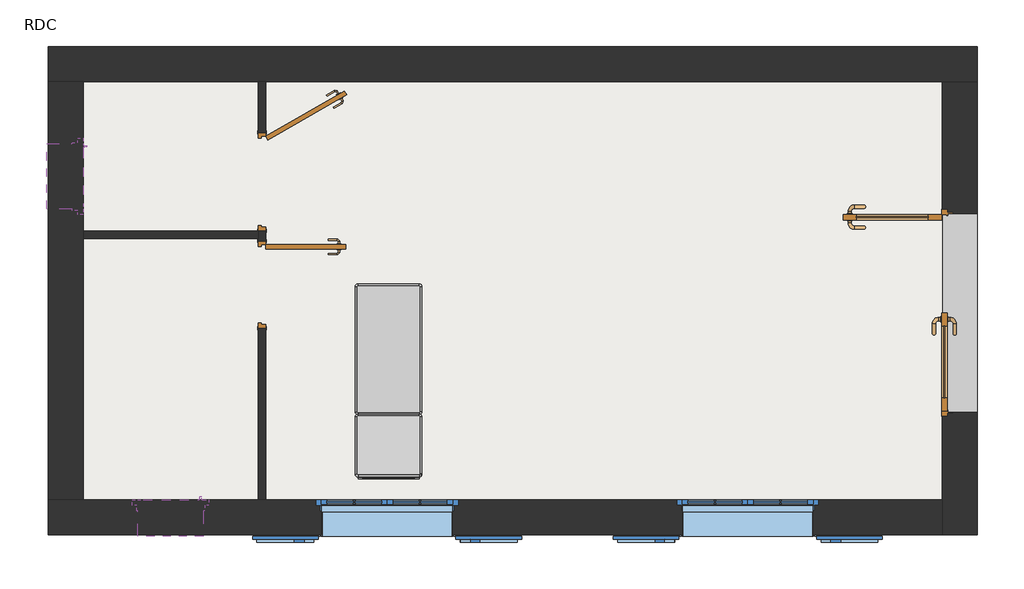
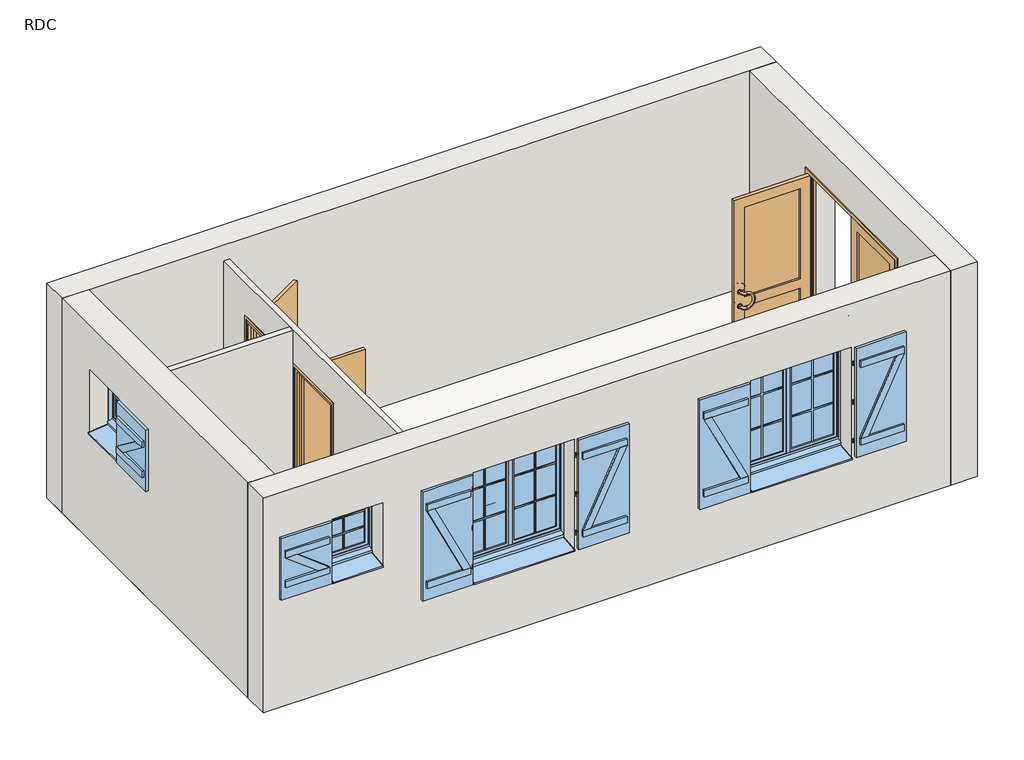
# One storey, incomplete: 6 walls, 4 windows, 3 doors, 1 furniture element, 1 proxy, 1 slab.
"""IFC4 building model written with IfcOpenShell, lengths in millimetres."""

from ifc_helpers import new_model, si_unit, frame, origin, origin_with_axes, place, context, project, spatial, polyline, outline, extrude, faceted_brep, triangles, transform, mapped, element, save
from components import ext_double_655bdf71, int_simple_pp_0_73m_x_2_04m_4c4d3f64, int_simple_pp_0_83m_x_2_04m_347fc496, furniture_1800_x_600_x_800_mm_032c7c21, furniture_1800_x_600_x_800_mm_1ba1c7d4, window_0_60m_x_0_75m_appui_alu_5fc1b312, window_0_60m_x_0_75m_appui_alu_97261319, window_1_20m_x_1_35m_appui_alu_f21a0c15

model = new_model("IFC4")

# Units and contexts
model_context = context("Model", 3, world=origin())
ifc_project = project(units=[si_unit("LENGTHUNIT", "METRE", prefix="MILLI")], contexts=[model_context])

# Site, building, storey
site = spatial("IfcSite", under=ifc_project)
building = spatial("IfcBuilding", under=site)
storey = spatial("IfcBuildingStorey", under=building, Name="RDC", Elevation=0.0)

# Proxy
placement = place(None, origin())
element("IfcBuildingElementProxy", 1, Name="Building Element Proxy", at=placement, inside=storey, context=model_context, shape_type="Tessellation", body=[
    triangles([(2797.9559601, 6238.2953842, 0.0), (483.1190938, 6238.2953842, 0.0), (-5702.0438141, 6238.2953842, 0.0), (-5702.0438141, 2218.7382626, 0.0), (-5702.0438141, 1768.2951176, 0.0), (2797.9559601, 1768.2951176, 0.0)], [[4, 5, 6], [3, 4, 2], [2, 6, 1], [6, 2, 4]], closed=False),
])

# Doors
ext_double_shape = ext_double_655bdf71(model_context)
element("IfcDoor", 2, ObjectType="Ext. Double : Vitrée avec traverse - 1.80 m x 2.15 m", at=placement, inside=storey, context=model_context, shape_type="MappedRepresentation", body=[
    mapped(ext_double_shape, transform((2637.9561003, 3790.7951017, 0.0), x_axis=(0.0, -1.0, 0.0), y_axis=(1.0, 0.0, 0.0), z_axis=(0.0, 0.0, 1.0))),
])
int_simple_pp_0_73m_x_2_04m_shape = int_simple_pp_0_73m_x_2_04m_4c4d3f64(model_context)
element("IfcDoor", 3, ObjectType="Int. Simple : PP (0.73m x 2.04m)", at=placement, inside=storey, context=model_context, shape_type="MappedRepresentation", body=[
    mapped(int_simple_pp_0_73m_x_2_04m_shape, transform((-3747.0438997, 4093.2951017, 0.0), x_axis=(0.0, 1.0, 0.0), y_axis=(-1.0, 0.0, 0.0), z_axis=(0.0, 0.0, 1.0))),
])
int_simple_pp_0_83m_x_2_04m_shape = int_simple_pp_0_83m_x_2_04m_347fc496(model_context)
element("IfcDoor", 4, ObjectType="Int. Simple : PP (0.83m x 2.04m)", at=placement, inside=storey, context=model_context, shape_type="MappedRepresentation", body=[
    mapped(int_simple_pp_0_83m_x_2_04m_shape, transform((-3747.0438997, 5035.7951017, 0.0), x_axis=(0.0, 1.0, 0.0), y_axis=(-1.0, 0.0, 0.0), z_axis=(0.0, 0.0, 1.0))),
])

# Furniture
furniture_1800_x_600_x_800_mm_shape = furniture_1800_x_600_x_800_mm_032c7c21(model_context)
furniture_1800_x_600_x_800_mm_2_shape = furniture_1800_x_600_x_800_mm_1ba1c7d4(model_context)
element("IfcFurniture", 5, ObjectType="Table d'examen : 1800 x 600 x 800 mm", at=placement, inside=storey, context=model_context, shape_type="MappedRepresentation", body=[
    mapped(furniture_1800_x_600_x_800_mm_shape, transform((-2288.1651931, 3204.8177553, 0.0), x_axis=(0.0, -1.0000000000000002, 0.0), y_axis=(1.0000000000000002, 0.0, 0.0), z_axis=(0.0, 0.0, 1.0))),
    mapped(furniture_1800_x_600_x_800_mm_2_shape, transform((-2288.1651931, 3204.8177553, 0.0), x_axis=(0.0, -1.0000000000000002, 0.0), y_axis=(1.0000000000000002, 0.0, 0.0), z_axis=(0.0, 0.0, 1.0))),
])

# Slab
element("IfcSlab", 6, ObjectType="Générique  250 mm", at=placement, inside=storey, context=model_context, shape_type="SweptSolid", body=[
    extrude(outline(polyline([(2477.9561003, 5918.2951017), (2477.9561003, 2088.2951017), (-5382.0438997, 2088.2951017), (-5382.0438997, 5918.2951017), (2477.9561003, 5918.2951017)])), frame((0.0, 0.0, -250.0), z_axis=(0.0, 0.0, 1.0), x_axis=(1.0, 0.0, 0.0)), (0.0, 0.0, 1.0), 250.0),
])

# Walls
element("IfcWall", 7, ObjectType="Générique - 200 mm+ isolant 100", at=placement, inside=storey, context=model_context, shape_type="Brep", body=[
    faceted_brep([(-5702.0438997, 5918.2951017, 0.0), (-5382.0438997, 5918.2951017, 0.0), (2477.9561003, 5918.2951017, 0.0), (2797.9561003, 5918.2951017, 0.0), (2797.9561003, 5918.2951017, 2700.0), (2477.9561003, 5918.2951017, 2700.0), (-5382.0438997, 5918.2951017, 2700.0), (-5702.0438997, 5918.2951017, 2700.0), (-5702.0438997, 6238.2951017, 0.0), (-5702.0438997, 6238.2951017, 2700.0), (2797.9561003, 6238.2951017, 2700.0), (2797.9561003, 6238.2951017, 0.0)], [[[0, 1, 2, 3, 4, 5, 6, 7]], [[8, 9, 10, 11]], [[3, 2, 1, 0, 8, 11]], [[7, 6, 5, 4, 10, 9]], [[4, 3, 11, 10]], [[0, 7, 9, 8]]]),
])
element("IfcWall", 8, ObjectType="Générique - 200 mm+ isolant 100", at=placement, inside=storey, context=model_context, shape_type="Brep", body=[
    faceted_brep([(2477.9561003, 1768.2951017, 2700.0), (2477.9561003, 2088.2951017, 2700.0), (2477.9561003, 5918.2951017, 2700.0), (2477.9561003, 5918.2951017, 0.0), (2477.9561003, 4750.7951017, 0.0), (2477.9561003, 4750.7951017, 2200.0), (2477.9561003, 2850.7951017, 2200.0), (2477.9561003, 2850.7951017, 0.0), (2477.9561003, 2088.2951017, 0.0), (2477.9561003, 1768.2951017, 0.0), (2797.9561003, 5918.2951017, 2700.0), (2797.9561003, 1768.2951017, 2700.0), (2797.9561003, 1768.2951017, 0.0), (2797.9561003, 2890.7951017, 0.0), (2797.9561003, 2890.7951017, 2160.0), (2797.9561003, 4710.7951017, 2160.0), (2797.9561003, 4710.7951017, 0.0), (2797.9561003, 5918.2951017, 0.0), (2577.9561003, 4710.7951017, 0.0), (2577.9561003, 4720.7951017, 0.0), (2527.9561003, 4720.7951017, 0.0), (2527.9561003, 4750.7951017, 0.0), (2527.9561003, 2850.7951017, 0.0), (2527.9561003, 2880.7951017, 0.0), (2577.9561003, 2880.7951017, 0.0), (2577.9561003, 2890.7951017, 0.0), (2577.9561003, 2890.7951017, 2160.0), (2577.9561003, 4710.7951017, 2160.0), (2527.9561003, 4720.7951017, 2170.0), (2527.9561003, 2880.7951017, 2170.0), (2527.9561003, 2850.7951017, 2200.0), (2527.9561003, 4750.7951017, 2200.0), (2577.9561003, 4720.7951017, 2170.0), (2577.9561003, 2880.7951017, 2170.0)], [[[0, 1, 2, 3, 4, 5, 6, 7, 8, 9]], [[10, 11, 12, 13, 14, 15, 16, 17]], [[3, 17, 16, 18, 19, 20, 21, 4]], [[12, 9, 8, 7, 22, 23, 24, 25, 13]], [[2, 1, 0, 11, 10]], [[3, 2, 10, 17]], [[0, 9, 12, 11]], [[26, 27, 15, 14]], [[25, 26, 14, 13]], [[27, 18, 16, 15]], [[20, 28, 29, 23, 22, 30, 31, 21]], [[28, 20, 19, 32]], [[27, 26, 25, 24, 33, 32, 19, 18]], [[21, 31, 5, 4]], [[29, 28, 32, 33]], [[31, 30, 6, 5]], [[23, 29, 33, 24]], [[30, 22, 7, 6]]]),
])
element("IfcWall", 9, ObjectType="Générique - 200 mm+ isolant 100", at=placement, inside=storey, context=model_context, shape_type="Brep", body=[
    faceted_brep([(2477.9561003, 2088.2951017, 0.0), (-5382.0438997, 2088.2951017, 0.0), (-5702.0438997, 2088.2951017, 0.0), (-5702.0438997, 2088.2951017, 2700.0), (-5382.0438997, 2088.2951017, 2700.0), (2477.9561003, 2088.2951017, 2700.0), (-3252.0438997, 2088.2951017, 800.0), (-1952.0438997, 2088.2951017, 800.0), (-1952.0438997, 2088.2951017, 2200.0), (-3252.0438997, 2088.2951017, 2200.0), (47.9561003, 2088.2951017, 800.0), (1347.9561003, 2088.2951017, 800.0), (1347.9561003, 2088.2951017, 2200.0), (47.9561003, 2088.2951017, 2200.0), (-4932.0438997, 2088.2951017, 1400.0), (-4232.0438997, 2088.2951017, 1400.0), (-4232.0438997, 2088.2951017, 2200.0), (-4932.0438997, 2088.2951017, 2200.0), (2477.9561003, 1768.2951017, 0.0), (2477.9561003, 1768.2951017, 2700.0), (-5702.0438997, 1768.2951017, 2700.0), (-5702.0438997, 1768.2951017, 0.0), (-2002.0438997, 1768.2951017, 2150.0), (-2002.0438997, 1768.2951017, 759.7749835), (-3202.0438997, 1768.2951017, 759.7749835), (-3202.0438997, 1768.2951017, 2150.0), (1297.9561003, 1768.2951017, 2150.0), (1297.9561003, 1768.2951017, 759.7749835), (97.9561003, 1768.2951017, 759.7749835), (97.9561003, 1768.2951017, 2150.0), (-4282.0438997, 1768.2951017, 2150.0), (-4282.0438997, 1768.2951017, 1359.7749835), (-4882.0438997, 1768.2951017, 1359.7749835), (-4882.0438997, 1768.2951017, 2150.0), (-2002.0438997, 2008.2951017, 800.0), (-2002.0438997, 2008.2951017, 785.0), (-2002.0438997, 1988.2951017, 2150.0), (-2002.0438997, 1988.2951017, 800.0), (-3202.0438997, 2008.2951017, 785.0), (-3202.0438997, 2008.2951017, 800.0), (-3202.0438997, 1988.2951017, 800.0), (-3202.0438997, 1988.2951017, 2150.0), (-1992.0438997, 1988.2951017, 800.0), (-1992.0438997, 2038.2951017, 800.0), (-1952.0438997, 2038.2951017, 800.0), (-3252.0438997, 2038.2951017, 800.0), (-3212.0438997, 2038.2951017, 800.0), (-3212.0438997, 1988.2951017, 800.0), (-1952.0438997, 2038.2951017, 2200.0), (-1992.0438997, 2038.2951017, 2160.0), (-3212.0438997, 2038.2951017, 2160.0), (-3252.0438997, 2038.2951017, 2200.0), (-1992.0438997, 1988.2951017, 2160.0), (-3212.0438997, 1988.2951017, 2160.0), (1297.9561003, 2008.2951017, 800.0), (1297.9561003, 2008.2951017, 785.0), (1297.9561003, 1988.2951017, 2150.0), (1297.9561003, 1988.2951017, 800.0), (97.9561003, 2008.2951017, 785.0), (97.9561003, 2008.2951017, 800.0), (97.9561003, 1988.2951017, 800.0), (97.9561003, 1988.2951017, 2150.0), (1307.9561003, 1988.2951017, 800.0), (1307.9561003, 2038.2951017, 800.0), (1347.9561003, 2038.2951017, 800.0), (47.9561003, 2038.2951017, 800.0), (87.9561003, 2038.2951017, 800.0), (87.9561003, 1988.2951017, 800.0), (1347.9561003, 2038.2951017, 2200.0), (1307.9561003, 2038.2951017, 2160.0), (87.9561003, 2038.2951017, 2160.0), (47.9561003, 2038.2951017, 2200.0), (1307.9561003, 1988.2951017, 2160.0), (87.9561003, 1988.2951017, 2160.0), (-4282.0438997, 2008.2951017, 1400.0), (-4282.0438997, 2008.2951017, 1385.0), (-4282.0438997, 1988.2951017, 2150.0), (-4282.0438997, 1988.2951017, 1400.0), (-4882.0438997, 2008.2951017, 1385.0), (-4882.0438997, 2008.2951017, 1400.0), (-4882.0438997, 1988.2951017, 1400.0), (-4882.0438997, 1988.2951017, 2150.0), (-4272.0438997, 1988.2951017, 1400.0), (-4272.0438997, 2038.2951017, 1400.0), (-4232.0438997, 2038.2951017, 1400.0), (-4932.0438997, 2038.2951017, 1400.0), (-4892.0438997, 2038.2951017, 1400.0), (-4892.0438997, 1988.2951017, 1400.0), (-4232.0438997, 2038.2951017, 2200.0), (-4272.0438997, 2038.2951017, 2160.0), (-4892.0438997, 2038.2951017, 2160.0), (-4932.0438997, 2038.2951017, 2200.0), (-4272.0438997, 1988.2951017, 2160.0), (-4892.0438997, 1988.2951017, 2160.0)], [[[0, 1, 2, 3, 4, 5], [6, 7, 8, 9], [10, 11, 12, 13], [14, 15, 16, 17]], [[18, 19, 20, 21], [22, 23, 24, 25], [26, 27, 28, 29], [30, 31, 32, 33]], [[2, 1, 0, 18, 21]], [[5, 4, 3, 20, 19]], [[0, 5, 19, 18]], [[3, 2, 21, 20]], [[34, 35, 23, 22, 36, 37]], [[38, 39, 40, 41, 25, 24]], [[35, 38, 24, 23]], [[35, 34, 39, 38]], [[22, 25, 41, 36]], [[39, 34, 37, 42, 43, 44, 7, 6, 45, 46, 47, 40]], [[7, 44, 48, 8]], [[44, 43, 49, 50, 46, 45, 51, 48]], [[43, 42, 52, 49]], [[42, 37, 36, 41, 40, 47, 53, 52]], [[8, 48, 51, 9]], [[50, 49, 52, 53]], [[51, 45, 6, 9]], [[46, 50, 53, 47]], [[54, 55, 27, 26, 56, 57]], [[58, 59, 60, 61, 29, 28]], [[55, 58, 28, 27]], [[55, 54, 59, 58]], [[26, 29, 61, 56]], [[59, 54, 57, 62, 63, 64, 11, 10, 65, 66, 67, 60]], [[11, 64, 68, 12]], [[64, 63, 69, 70, 66, 65, 71, 68]], [[63, 62, 72, 69]], [[62, 57, 56, 61, 60, 67, 73, 72]], [[12, 68, 71, 13]], [[70, 69, 72, 73]], [[71, 65, 10, 13]], [[66, 70, 73, 67]], [[74, 75, 31, 30, 76, 77]], [[78, 79, 80, 81, 33, 32]], [[75, 78, 32, 31]], [[75, 74, 79, 78]], [[30, 33, 81, 76]], [[79, 74, 77, 82, 83, 84, 15, 14, 85, 86, 87, 80]], [[15, 84, 88, 16]], [[84, 83, 89, 90, 86, 85, 91, 88]], [[83, 82, 92, 89]], [[82, 77, 76, 81, 80, 87, 93, 92]], [[16, 88, 91, 17]], [[90, 89, 92, 93]], [[91, 85, 14, 17]], [[86, 90, 93, 87]]]),
])
element("IfcWall", 10, ObjectType="Générique - 200 mm+ isolant 100", at=placement, inside=storey, context=model_context, shape_type="Brep", body=[
    faceted_brep([(-5382.0438997, 2088.2951017, 0.0), (-5382.0438997, 5918.2951017, 0.0), (-5382.0438997, 5918.2951017, 2700.0), (-5382.0438997, 2088.2951017, 2700.0), (-5382.0438997, 5398.2951017, 1400.0), (-5382.0438997, 4698.2951017, 1400.0), (-5382.0438997, 4698.2951017, 2200.0), (-5382.0438997, 5398.2951017, 2200.0), (-5702.0438997, 2088.2951017, 0.0), (-5702.0438997, 2088.2951017, 2700.0), (-5702.0438997, 5918.2951017, 2700.0), (-5702.0438997, 5918.2951017, 0.0), (-5702.0438997, 5348.2951017, 1359.7749835), (-5702.0438997, 5348.2951017, 2150.0), (-5702.0438997, 4748.2951017, 2150.0), (-5702.0438997, 4748.2951017, 1359.7749835), (-5462.0438997, 5348.2951017, 1400.0), (-5482.0438997, 5348.2951017, 1400.0), (-5482.0438997, 5348.2951017, 2150.0), (-5462.0438997, 5348.2951017, 1385.0), (-5462.0438997, 4748.2951017, 1385.0), (-5482.0438997, 4748.2951017, 2150.0), (-5482.0438997, 4748.2951017, 1400.0), (-5462.0438997, 4748.2951017, 1400.0), (-5482.0438997, 4738.2951017, 1400.0), (-5432.0438997, 4738.2951017, 1400.0), (-5432.0438997, 4698.2951017, 1400.0), (-5432.0438997, 5398.2951017, 1400.0), (-5432.0438997, 5358.2951017, 1400.0), (-5482.0438997, 5358.2951017, 1400.0), (-5432.0438997, 5398.2951017, 2200.0), (-5432.0438997, 4698.2951017, 2200.0), (-5432.0438997, 4738.2951017, 2160.0), (-5432.0438997, 5358.2951017, 2160.0), (-5482.0438997, 5358.2951017, 2160.0), (-5482.0438997, 4738.2951017, 2160.0)], [[[0, 1, 2, 3], [4, 5, 6, 7]], [[8, 9, 10, 11], [12, 13, 14, 15]], [[1, 0, 8, 11]], [[3, 2, 10, 9]], [[2, 1, 11, 10]], [[0, 3, 9, 8]], [[16, 17, 18, 13, 12, 19]], [[20, 15, 14, 21, 22, 23]], [[19, 12, 15, 20]], [[19, 20, 23, 16]], [[13, 18, 21, 14]], [[23, 22, 24, 25, 26, 5, 4, 27, 28, 29, 17, 16]], [[4, 7, 30, 27]], [[27, 30, 31, 26, 25, 32, 33, 28]], [[28, 33, 34, 29]], [[29, 34, 35, 24, 22, 21, 18, 17]], [[7, 6, 31, 30]], [[32, 35, 34, 33]], [[31, 6, 5, 26]], [[25, 24, 35, 32]]]),
])
element("IfcWall", 11, ObjectType="Intérieur - Cloison 70", at=placement, inside=storey, context=model_context, shape_type="Brep", body=[
    faceted_brep([(-3782.0438997, 2088.2951017, 2500.0), (-3782.0438997, 4478.2951017, 2500.0), (-3782.0438997, 4548.2951017, 2500.0), (-3782.0438997, 5918.2951017, 2500.0), (-3782.0438997, 5918.2951017, 0.0), (-3782.0438997, 5450.7951017, 0.0), (-3782.0438997, 5450.7951017, 2075.0), (-3782.0438997, 4550.7951017, 2075.0), (-3782.0438997, 4550.7951017, 0.0), (-3782.0438997, 4548.2951017, 0.0), (-3782.0438997, 4478.2951017, 0.0), (-3782.0438997, 4458.2951017, 0.0), (-3782.0438997, 4458.2951017, 2075.0), (-3782.0438997, 3658.2951017, 2075.0), (-3782.0438997, 3658.2951017, 0.0), (-3782.0438997, 2088.2951017, 0.0), (-3712.0438997, 5918.2951017, 2500.0), (-3712.0438997, 2088.2951017, 2500.0), (-3712.0438997, 2088.2951017, 0.0), (-3712.0438997, 3658.2951017, 0.0), (-3712.0438997, 3658.2951017, 2075.0), (-3712.0438997, 4458.2951017, 2075.0), (-3712.0438997, 4458.2951017, 0.0), (-3712.0438997, 4550.7951017, 0.0), (-3712.0438997, 4550.7951017, 2075.0), (-3712.0438997, 5450.7951017, 2075.0), (-3712.0438997, 5450.7951017, 0.0), (-3712.0438997, 5918.2951017, 0.0)], [[[0, 1, 2, 3, 4, 5, 6, 7, 8, 9, 10, 11, 12, 13, 14, 15]], [[16, 17, 18, 19, 20, 21, 22, 23, 24, 25, 26, 27]], [[4, 27, 26, 5]], [[18, 15, 14, 19]], [[8, 23, 22, 11, 10, 9]], [[3, 2, 1, 0, 17, 16]], [[4, 3, 16, 27]], [[0, 15, 18, 17]], [[21, 12, 11, 22]], [[12, 21, 20, 13]], [[13, 20, 19, 14]], [[25, 6, 5, 26]], [[6, 25, 24, 7]], [[7, 24, 23, 8]]]),
])
element("IfcWall", 12, ObjectType="Intérieur - Cloison 70", at=placement, inside=storey, context=model_context, shape_type="SweptSolid", body=[
    extrude(outline(polyline([(-3782.0438997, 4478.2951017), (-5382.0438997, 4478.2951017), (-5382.0438997, 4548.2951017), (-3782.0438997, 4548.2951017), (-3782.0438997, 4478.2951017)])), origin_with_axes(), (0.0, 0.0, 1.0), 2500.0),
])

# Windows
window_0_60m_x_0_75m_appui_alu_shape = window_0_60m_x_0_75m_appui_alu_5fc1b312(model_context)
element("IfcWindow", 13, ObjectType="1 Vantail droit - Volet et petits bois : 0.60m x 0.75m - Appui Alu", at=placement, inside=storey, context=model_context, shape_type="MappedRepresentation", body=[
    mapped(window_0_60m_x_0_75m_appui_alu_shape, transform((-4582.0438997, 1928.2951017, 600.0), x_axis=(-1.0, 0.0, 0.0), y_axis=(0.0, -1.0, 0.0), z_axis=(0.0, 0.0, 1.0))),
])
window_0_60m_x_0_75m_appui_alu_2_shape = window_0_60m_x_0_75m_appui_alu_97261319(model_context)
element("IfcWindow", 14, ObjectType="1 Vantail droit - Volet et petits bois : 0.60m x 0.75m - Appui Alu", at=placement, inside=storey, context=model_context, shape_type="MappedRepresentation", body=[
    mapped(window_0_60m_x_0_75m_appui_alu_2_shape, transform((-5542.0438997, 5048.2951017, 600.0), x_axis=(0.0, -1.0, 0.0), y_axis=(1.0, 0.0, 0.0), z_axis=(0.0, 0.0, 1.0))),
])
window_1_20m_x_1_35m_appui_alu_shape = window_1_20m_x_1_35m_appui_alu_f21a0c15(model_context)
element("IfcWindow", 15, ObjectType="2 Vantaux droits - Volets et petits bois : 1.20m x 1.35m - Appui Alu", at=placement, inside=storey, context=model_context, shape_type="MappedRepresentation", body=[
    mapped(window_1_20m_x_1_35m_appui_alu_shape, transform((-2602.0438997, 1928.2951017, 0.0), x_axis=(-1.0, 0.0, 0.0), y_axis=(0.0, -1.0, 0.0), z_axis=(0.0, 0.0, 1.0))),
])
element("IfcWindow", 16, ObjectType="2 Vantaux droits - Volets et petits bois : 1.20m x 1.35m - Appui Alu", at=placement, inside=storey, context=model_context, shape_type="MappedRepresentation", body=[
    mapped(window_1_20m_x_1_35m_appui_alu_shape, transform((697.9561003, 1928.2951017, 0.0), x_axis=(-1.0, 0.0, 0.0), y_axis=(0.0, -1.0, 0.0), z_axis=(0.0, 0.0, 1.0))),
])

save(model, "model.ifc")
